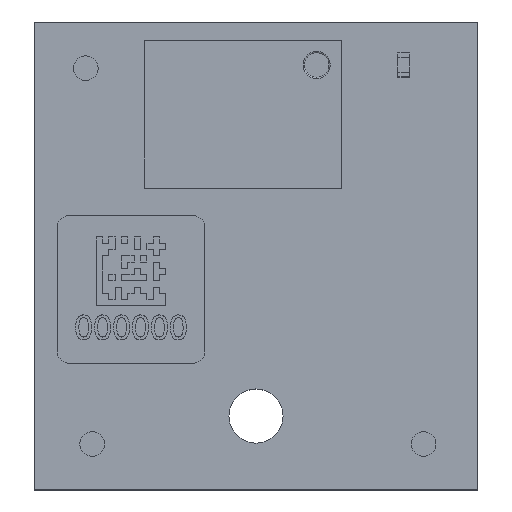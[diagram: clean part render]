
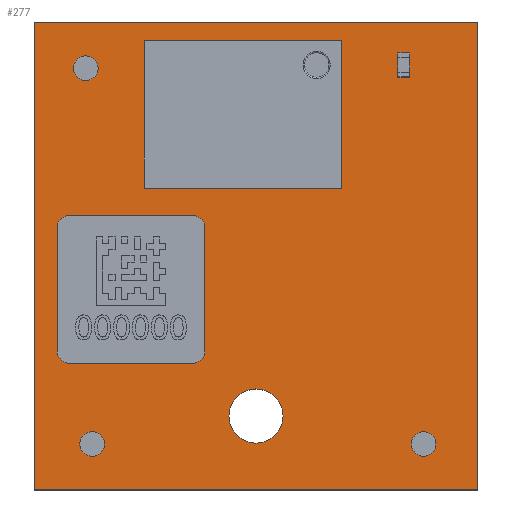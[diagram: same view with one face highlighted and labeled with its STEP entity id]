
A CAD part, top view. The second image highlights one B-rep face of the part: STEP entity #277.
In plain terms, the highlighted planar face has unit normal (0, 0, 1).
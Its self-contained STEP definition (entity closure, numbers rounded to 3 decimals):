
#112 = VERTEX_POINT('',#113);
#113 = CARTESIAN_POINT('',(0.,0.,1.979));
#119 = EDGE_CURVE('',#112,#120,#122,.T.);
#120 = VERTEX_POINT('',#121);
#121 = CARTESIAN_POINT('',(0.,19.,1.979));
#122 = LINE('',#123,#124);
#123 = CARTESIAN_POINT('',(0.,0.,1.979));
#124 = VECTOR('',#125,1.);
#125 = DIRECTION('',(0.,1.,0.));
#150 = EDGE_CURVE('',#120,#151,#153,.T.);
#151 = VERTEX_POINT('',#152);
#152 = CARTESIAN_POINT('',(18.001,19.,1.979));
#153 = LINE('',#154,#155);
#154 = CARTESIAN_POINT('',(0.,19.,1.979));
#155 = VECTOR('',#156,1.);
#156 = DIRECTION('',(1.,0.,0.));
#181 = EDGE_CURVE('',#151,#182,#184,.T.);
#182 = VERTEX_POINT('',#183);
#183 = CARTESIAN_POINT('',(18.001,0.,1.979));
#184 = LINE('',#185,#186);
#185 = CARTESIAN_POINT('',(18.001,19.,1.979));
#186 = VECTOR('',#187,1.);
#187 = DIRECTION('',(0.,-1.,0.));
#212 = EDGE_CURVE('',#182,#112,#213,.T.);
#213 = LINE('',#214,#215);
#214 = CARTESIAN_POINT('',(18.001,0.,1.979));
#215 = VECTOR('',#216,1.);
#216 = DIRECTION('',(-1.,0.,0.));
#236 = VERTEX_POINT('',#237);
#237 = CARTESIAN_POINT('',(10.1,3.,1.979));
#243 = EDGE_CURVE('',#236,#236,#244,.T.);
#244 = CIRCLE('',#245,1.1);
#245 = AXIS2_PLACEMENT_3D('',#246,#247,#248);
#246 = CARTESIAN_POINT('',(9.,3.,1.979));
#247 = DIRECTION('',(0.,0.,1.));
#248 = DIRECTION('',(1.,0.,0.));
#277 = ADVANCED_FACE('',(#278,#284),#287,.T.);
#278 = FACE_BOUND('',#279,.F.);
#279 = EDGE_LOOP('',(#280,#281,#282,#283));
#280 = ORIENTED_EDGE('',*,*,#119,.T.);
#281 = ORIENTED_EDGE('',*,*,#150,.T.);
#282 = ORIENTED_EDGE('',*,*,#181,.T.);
#283 = ORIENTED_EDGE('',*,*,#212,.T.);
#284 = FACE_BOUND('',#285,.T.);
#285 = EDGE_LOOP('',(#286));
#286 = ORIENTED_EDGE('',*,*,#243,.F.);
#287 = PLANE('',#288);
#288 = AXIS2_PLACEMENT_3D('',#289,#290,#291);
#289 = CARTESIAN_POINT('',(0.,0.,1.979));
#290 = DIRECTION('',(0.,0.,1.));
#291 = DIRECTION('',(1.,0.,0.));
